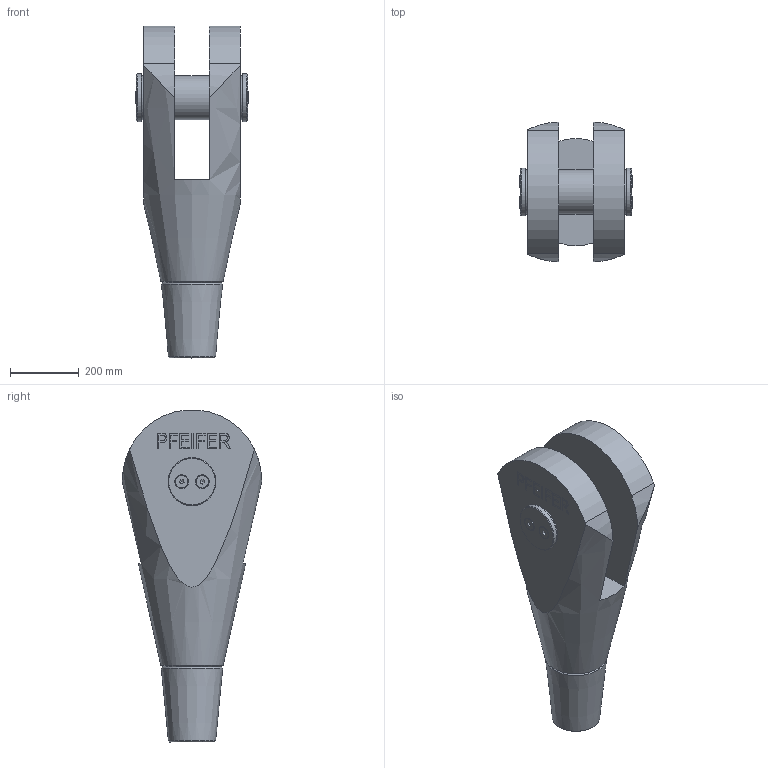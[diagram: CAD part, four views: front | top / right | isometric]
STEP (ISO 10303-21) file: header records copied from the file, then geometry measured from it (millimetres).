
FILE_DESCRIPTION(/* description */ (''),/* implementation_level */ '2;1');
FILE_NAME(/* name */ 'C:\Vault_WS\Designs\520-120-GAK.stp',/* time_stamp */ '2020-06-25T08:07:47+02:00',/* author */ ('schwarz'),/* organization */ (''),/* preprocessor_version */ 'ST-DEVELOPER v16.1',/* originating_system */ 'Autodesk Inventor 2016',/* authorisation */ '');
FILE_SCHEMA (('AUTOMOTIVE_DESIGN { 1 0 10303 214 3 1 1 }'));
Length unit declared in the file: centimetre
Products named in the file (1): 520-120-GAK-KMU-Kunde
Bounding box: 327 x 407.09 x 969.28 mm (x, y, z)
Volume: 44132261.5 mm3; surface area: 1428303.5 mm2
Topology: 2 solids, 10 shells, 241 faces, 617 edges, 408 vertices
Faces by surface type: plane 163, cone 29, cylinder 28, bspline 21
Full cylindrical faces by diameter (mm): 17.294 x4, 20 x4, 22 x4, 36.05 x4, 124 x1, 129 x1, 132 x2, 140 x2
Entity records: 7104 total; most frequent: CARTESIAN_POINT 1531, ORIENTED_EDGE 1070, DIRECTION 976, EDGE_CURVE 535, LINE 384, VECTOR 384, VERTEX_POINT 377, EDGE_LOOP 316
